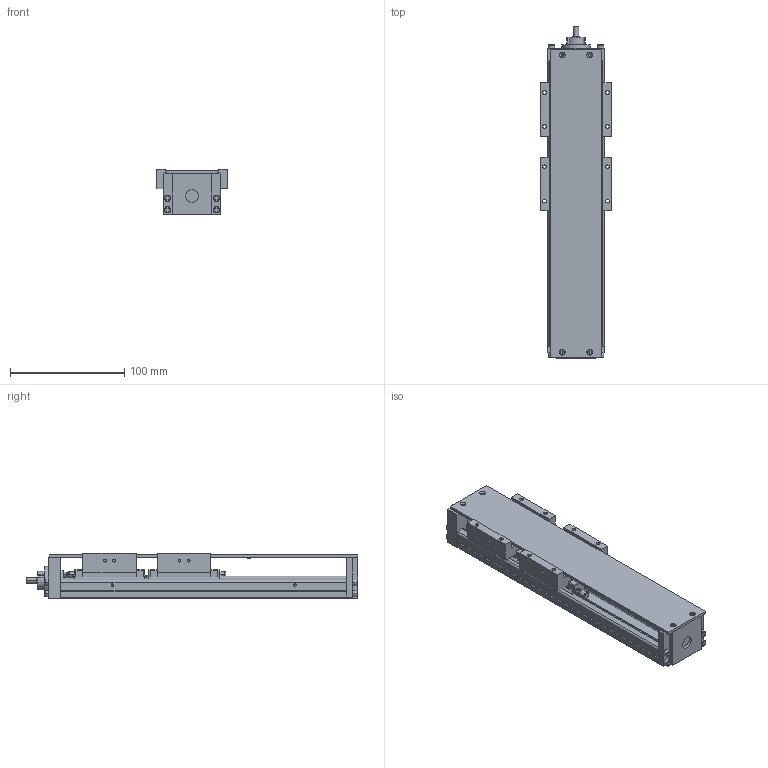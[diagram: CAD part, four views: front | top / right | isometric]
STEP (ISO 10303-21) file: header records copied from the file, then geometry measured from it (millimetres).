
FILE_DESCRIPTION(('no description'),'unknown implementation level');
FILE_NAME('KK5002P250A2H0C00_FILE_20.stp',' ',('HIWIN GmbH'),('CADClick - KiM GmbH - www.kimweb.de'),'unknown preprocess','ACIS','unknown authorization');
FILE_SCHEMA(('automotive_design'));
Length unit declared in the file: millimetre
Products named in the file (3): KK5002P250A2H0C00_FILE_1; KK50_FILE; KK5002P250A2H0C00_FILE
Bounding box: 62 x 290.5 x 40 mm (x, y, z)
Volume: 324775.4 mm3; surface area: 124788.2 mm2
Topology: 3 solids, 19 shells, 1171 faces, 2950 edges, 1871 vertices
Faces by surface type: plane 712, cylinder 321, cone 86, torus 52
Entity records: 68953 total; most frequent: CARTESIAN_POINT 6881, DIRECTION 6118, STYLED_ITEM 5957, PRESENTATION_STYLE_ASSIGNMENT 5957, COLOUR_RGB 5957, ORIENTED_EDGE 5824, EDGE_CURVE 2912, CURVE_STYLE 2912
